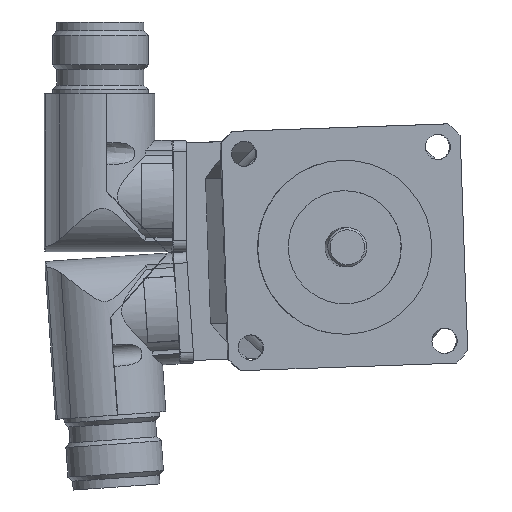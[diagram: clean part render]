
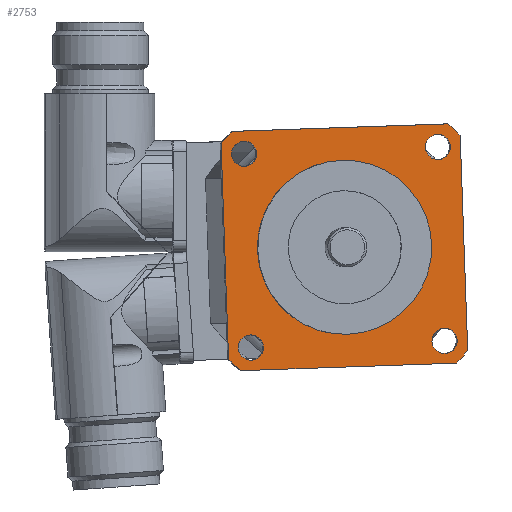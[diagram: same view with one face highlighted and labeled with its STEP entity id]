
A CAD part, left-side view. The second image highlights one B-rep face of the part: STEP entity #2753.
In plain terms, the highlighted planar face has unit normal (-0.999, -0.035, 0) as drawn and (0, 0, -1) by its records, which use the part's own axes.
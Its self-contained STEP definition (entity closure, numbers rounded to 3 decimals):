
#311=CIRCLE('',#2934,2.9);
#312=CIRCLE('',#2935,2.9);
#313=CIRCLE('',#2936,2.9);
#314=CIRCLE('',#2937,2.9);
#316=CIRCLE('',#2940,20.);
#317=CIRCLE('',#2943,37.);
#318=CIRCLE('',#2946,37.);
#319=CIRCLE('',#2949,37.);
#320=CIRCLE('',#2952,37.);
#510=VERTEX_POINT('',#4549);
#511=VERTEX_POINT('',#4569);
#512=VERTEX_POINT('',#4589);
#513=VERTEX_POINT('',#4609);
#515=VERTEX_POINT('',#4614);
#516=VERTEX_POINT('',#4618);
#517=VERTEX_POINT('',#4619);
#518=VERTEX_POINT('',#4624);
#519=VERTEX_POINT('',#4628);
#520=VERTEX_POINT('',#4632);
#521=VERTEX_POINT('',#4636);
#522=VERTEX_POINT('',#4640);
#523=VERTEX_POINT('',#4644);
#762=VECTOR('',#3397,1.);
#765=VECTOR('',#3405,1.);
#768=VECTOR('',#3413,1.);
#771=VECTOR('',#3421,1.);
#962=LINE('',#4623,#762);
#965=LINE('',#4631,#765);
#968=LINE('',#4639,#768);
#971=LINE('',#4647,#771);
#1215=EDGE_CURVE('',#510,#510,#311,.T.);
#1216=EDGE_CURVE('',#511,#511,#312,.T.);
#1217=EDGE_CURVE('',#512,#512,#313,.T.);
#1218=EDGE_CURVE('',#513,#513,#314,.T.);
#1220=EDGE_CURVE('',#515,#515,#316,.T.);
#1221=EDGE_CURVE('',#516,#517,#317,.T.);
#1224=EDGE_CURVE('',#517,#518,#962,.T.);
#1226=EDGE_CURVE('',#518,#519,#318,.T.);
#1228=EDGE_CURVE('',#519,#520,#965,.T.);
#1230=EDGE_CURVE('',#520,#521,#319,.T.);
#1232=EDGE_CURVE('',#521,#522,#968,.T.);
#1234=EDGE_CURVE('',#522,#523,#320,.T.);
#1236=EDGE_CURVE('',#523,#516,#971,.T.);
#1701=ORIENTED_EDGE('',*,*,#1221,.F.);
#1702=ORIENTED_EDGE('',*,*,#1236,.F.);
#1703=ORIENTED_EDGE('',*,*,#1234,.F.);
#1704=ORIENTED_EDGE('',*,*,#1232,.F.);
#1705=ORIENTED_EDGE('',*,*,#1230,.F.);
#1706=ORIENTED_EDGE('',*,*,#1228,.F.);
#1707=ORIENTED_EDGE('',*,*,#1226,.F.);
#1708=ORIENTED_EDGE('',*,*,#1224,.F.);
#1709=ORIENTED_EDGE('',*,*,#1215,.T.);
#1710=ORIENTED_EDGE('',*,*,#1216,.T.);
#1711=ORIENTED_EDGE('',*,*,#1217,.T.);
#1712=ORIENTED_EDGE('',*,*,#1218,.T.);
#1713=ORIENTED_EDGE('',*,*,#1220,.T.);
#2358=EDGE_LOOP('',(#1701,#1702,#1703,#1704,#1705,#1706,#1707,#1708));
#2359=EDGE_LOOP('',(#1709));
#2360=EDGE_LOOP('',(#1710));
#2361=EDGE_LOOP('',(#1711));
#2362=EDGE_LOOP('',(#1712));
#2363=EDGE_LOOP('',(#1713));
#2563=FACE_BOUND('',#2358,.T.);
#2564=FACE_BOUND('',#2359,.T.);
#2565=FACE_BOUND('',#2360,.T.);
#2566=FACE_BOUND('',#2361,.T.);
#2567=FACE_BOUND('',#2362,.T.);
#2568=FACE_BOUND('',#2363,.T.);
#2753=ADVANCED_FACE('',(#2563,#2564,#2565,#2566,#2567,#2568),#5765,.F.);
#2934=AXIS2_PLACEMENT_3D('',#4548,#3375,#3376);
#2935=AXIS2_PLACEMENT_3D('',#4568,#3377,#3378);
#2936=AXIS2_PLACEMENT_3D('',#4588,#3379,#3380);
#2937=AXIS2_PLACEMENT_3D('',#4608,#3381,#3382);
#2940=AXIS2_PLACEMENT_3D('',#4613,#3387,#3388);
#2943=AXIS2_PLACEMENT_3D('',#4617,#3392,#3393);
#2946=AXIS2_PLACEMENT_3D('',#4627,#3401,#3402);
#2949=AXIS2_PLACEMENT_3D('',#4635,#3409,#3410);
#2952=AXIS2_PLACEMENT_3D('',#4643,#3417,#3418);
#2954=AXIS2_PLACEMENT_3D('',#4648,#3422,$);
#3375=DIRECTION('',(0.,0.,1.));
#3376=DIRECTION('',(-2.9,0.,0.));
#3377=DIRECTION('',(0.,0.,1.));
#3378=DIRECTION('',(-2.9,0.,0.));
#3379=DIRECTION('',(0.,0.,1.));
#3380=DIRECTION('',(-2.9,0.,0.));
#3381=DIRECTION('',(0.,0.,1.));
#3382=DIRECTION('',(-2.9,0.,0.));
#3387=DIRECTION('',(0.,0.,1.));
#3388=DIRECTION('',(20.,0.,0.));
#3392=DIRECTION('',(0.,0.,1.));
#3393=DIRECTION('',(27.5,-24.754,0.));
#3397=DIRECTION('',(0.,-1.,0.));
#3401=DIRECTION('',(0.,0.,1.));
#3402=DIRECTION('',(24.754,27.5,0.));
#3405=DIRECTION('',(1.,0.,0.));
#3409=DIRECTION('',(0.,0.,1.));
#3410=DIRECTION('',(-27.5,24.754,0.));
#3413=DIRECTION('',(0.,1.,0.));
#3417=DIRECTION('',(0.,0.,1.));
#3418=DIRECTION('',(-24.754,-27.5,0.));
#3421=DIRECTION('',(-1.,0.,0.));
#3422=DIRECTION('',(0.,0.,1.));
#4548=CARTESIAN_POINT('',(-22.274,-22.274,-63.5));
#4549=CARTESIAN_POINT('',(-25.174,-22.274,-63.5));
#4568=CARTESIAN_POINT('',(22.274,22.274,-63.5));
#4569=CARTESIAN_POINT('',(19.374,22.274,-63.5));
#4588=CARTESIAN_POINT('',(22.274,-22.274,-63.5));
#4589=CARTESIAN_POINT('',(19.374,-22.274,-63.5));
#4608=CARTESIAN_POINT('',(-22.274,22.274,-63.5));
#4609=CARTESIAN_POINT('',(-25.174,22.274,-63.5));
#4613=CARTESIAN_POINT('',(0.,0.,-63.5));
#4614=CARTESIAN_POINT('',(-20.,0.,-63.5));
#4617=CARTESIAN_POINT('',(0.,0.,-63.5));
#4618=CARTESIAN_POINT('',(-24.754,27.5,-63.5));
#4619=CARTESIAN_POINT('',(-27.5,24.754,-63.5));
#4623=CARTESIAN_POINT('',(-27.5,24.754,-63.5));
#4624=CARTESIAN_POINT('',(-27.5,-24.754,-63.5));
#4627=CARTESIAN_POINT('',(0.,0.,-63.5));
#4628=CARTESIAN_POINT('',(-24.754,-27.5,-63.5));
#4631=CARTESIAN_POINT('',(-24.754,-27.5,-63.5));
#4632=CARTESIAN_POINT('',(24.754,-27.5,-63.5));
#4635=CARTESIAN_POINT('',(0.,0.,-63.5));
#4636=CARTESIAN_POINT('',(27.5,-24.754,-63.5));
#4639=CARTESIAN_POINT('',(27.5,-24.754,-63.5));
#4640=CARTESIAN_POINT('',(27.5,24.754,-63.5));
#4643=CARTESIAN_POINT('',(0.,0.,-63.5));
#4644=CARTESIAN_POINT('',(24.754,27.5,-63.5));
#4647=CARTESIAN_POINT('',(24.754,27.5,-63.5));
#4648=CARTESIAN_POINT('',(0.,0.,-63.5));
#5765=PLANE('',#2954);
